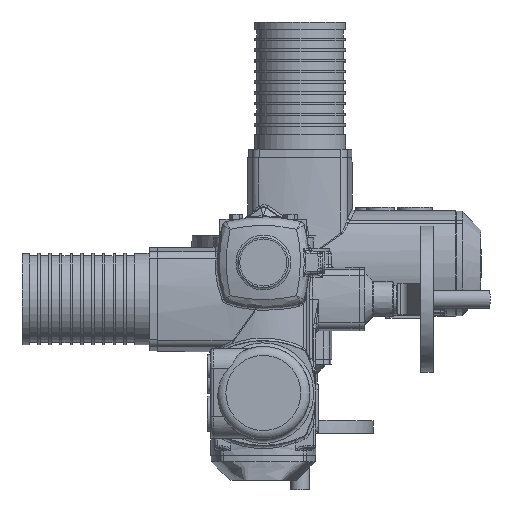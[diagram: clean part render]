
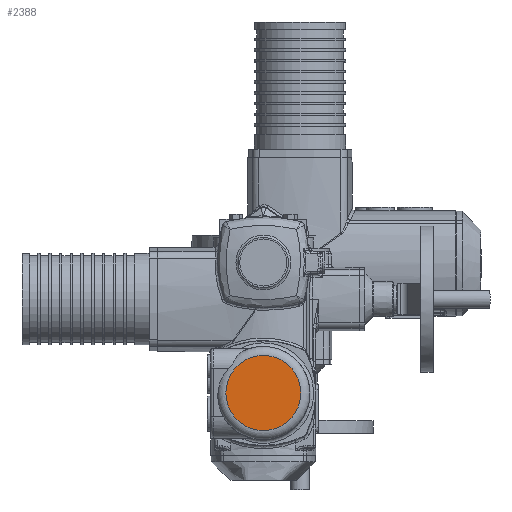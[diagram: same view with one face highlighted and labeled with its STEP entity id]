
A CAD part, top view. The second image highlights one B-rep face of the part: STEP entity #2388.
In plain terms, the highlighted planar face has unit normal (0, 0, 1) as drawn and (0, 0, -1) by its records, which use the part's own axes.
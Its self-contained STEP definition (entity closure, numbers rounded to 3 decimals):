
#2388 = ADVANCED_FACE( '', ( #5740 ), #5741, .F. );
#5740 = FACE_OUTER_BOUND( '', #12869, .T. );
#5741 = PLANE( '', #12870 );
#12869 = EDGE_LOOP( '', ( #24927 ) );
#12870 = AXIS2_PLACEMENT_3D( '', #24928, #24929, #24930 );
#24927 = ORIENTED_EDGE( '', *, *, #35129, .T. );
#24928 = CARTESIAN_POINT( '', ( 143., 0., -209. ) );
#24929 = DIRECTION( '', ( 0., 0., 1. ) );
#24930 = DIRECTION( '', ( 1., 0., 0. ) );
#35129 = EDGE_CURVE( '', #40024, #40024, #40025, .F. );
#40024 = VERTEX_POINT( '', #48598 );
#40025 = CIRCLE( '', #48599, 41. );
#48598 = CARTESIAN_POINT( '', ( 184., 0., -209. ) );
#48599 = AXIS2_PLACEMENT_3D( '', #70018, #70019, #70020 );
#70018 = CARTESIAN_POINT( '', ( 143., 0., -209. ) );
#70019 = DIRECTION( '', ( 0., 0., 1. ) );
#70020 = DIRECTION( '', ( 1., 0., 0. ) );
